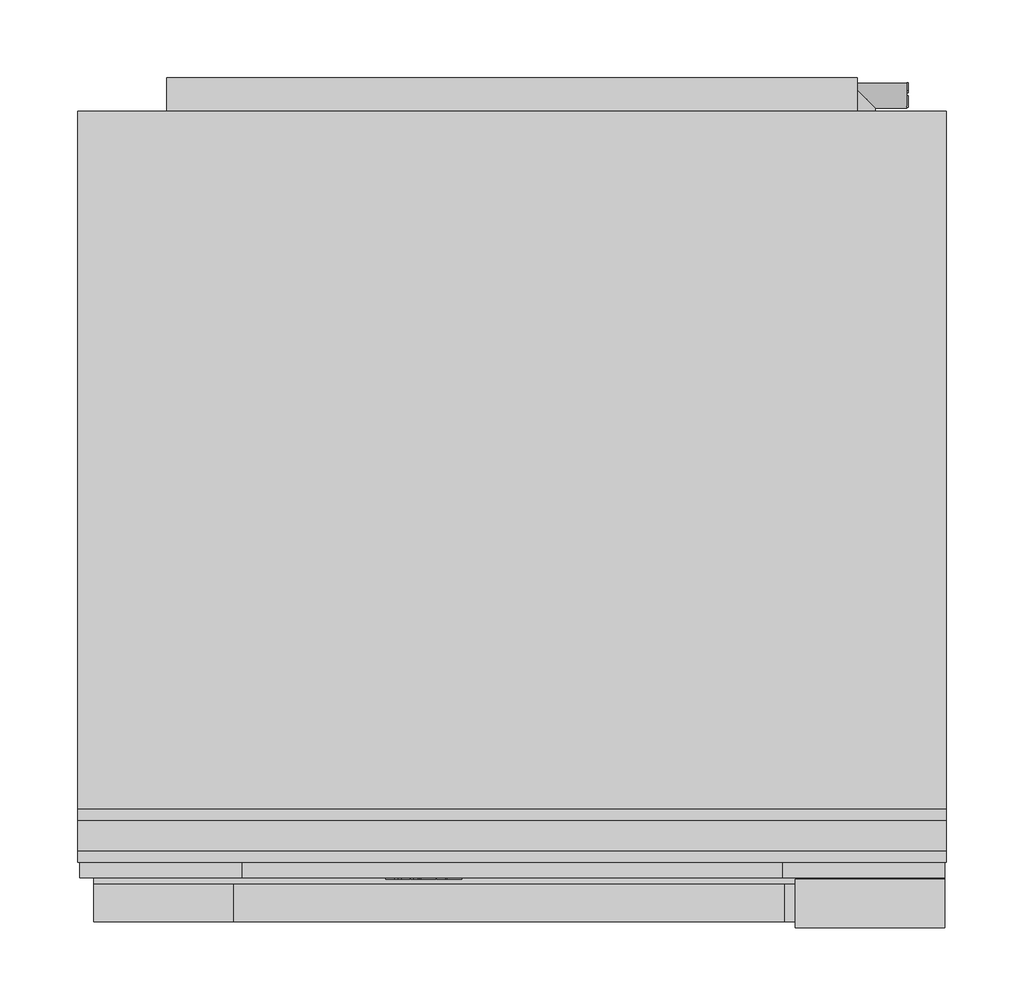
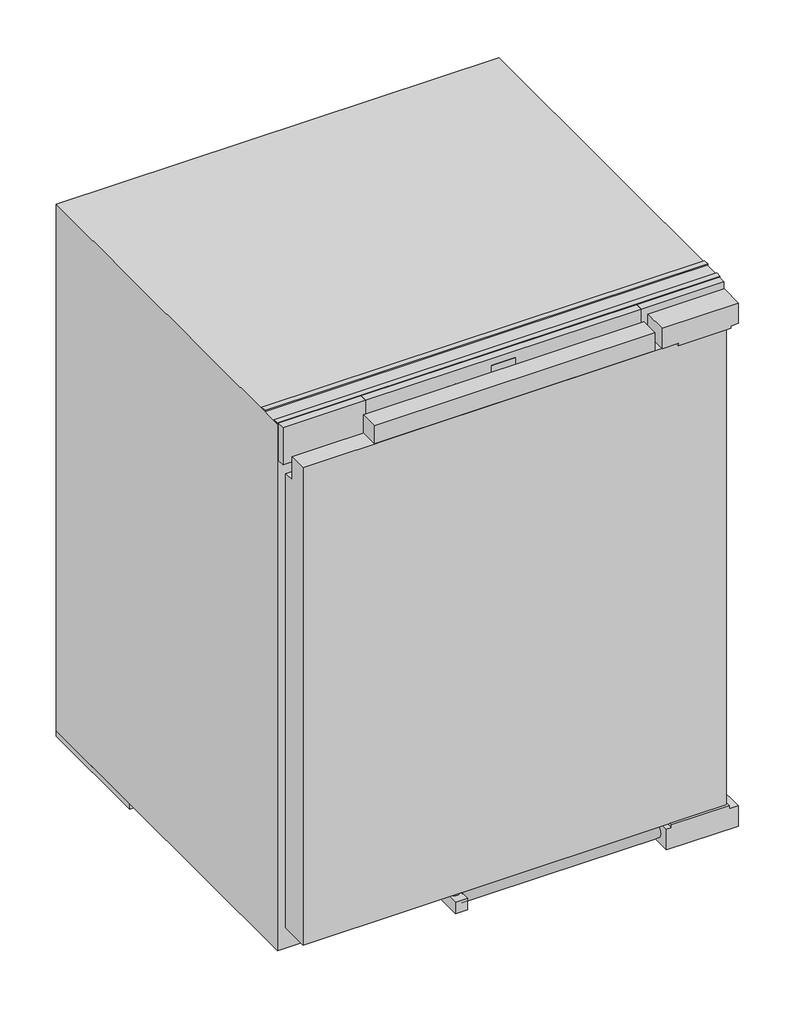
# Not in any storey: 1 proxy.
"""IFC4 building model written with IfcOpenShell, lengths in millimetres."""

from ifc_helpers import new_model, si_unit, origin, place, context, project, spatial, transform, mapped, element, save
from components import specialty_equipment_b1f32cfa

model = new_model("IFC4")

# Units and contexts
model_context = context("Model", 3, world=origin())
ifc_project = project(units=[si_unit("LENGTHUNIT", "METRE", prefix="MILLI")], contexts=[model_context])

# Site, building
site = spatial("IfcSite", under=ifc_project)
building = spatial("IfcBuilding", under=site)

# Proxy
placement = place(None, origin())
specialty_equipment_shape = specialty_equipment_b1f32cfa(model_context)
element("IfcBuildingElementProxy", 1, Name="12443420_EU1_FNS7040B : 37704006_EU1_12443420_FNS7040B", ObjectType="12443420_EU1_FNS7040B : 37704006_EU1_12443420_FNS7040B", at=placement, inside=building, context=model_context, shape_type="MappedRepresentation", body=[
    mapped(specialty_equipment_shape, transform((0.0, 0.0, 0.0), x_axis=(1.0, 0.0, 0.0), y_axis=(0.0, 1.0, 0.0), z_axis=(0.0, 0.0, 1.0))),
])

save(model, "model.ifc")
